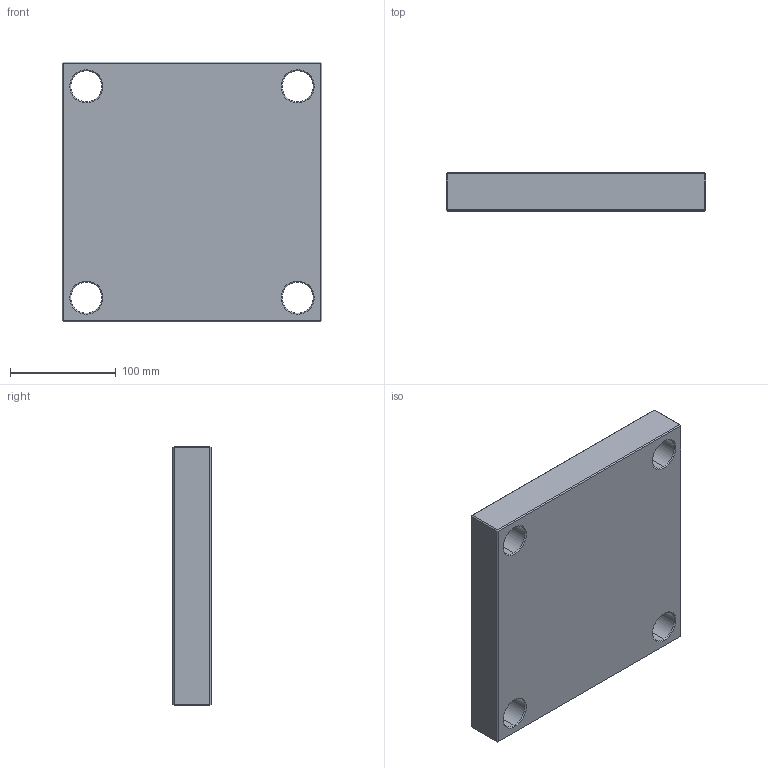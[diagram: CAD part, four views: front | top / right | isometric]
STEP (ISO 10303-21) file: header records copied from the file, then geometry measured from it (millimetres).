
FILE_DESCRIPTION (( 'STEP AP214' ), '1' );
FILE_NAME ('PCX-246x246x36.STEP', '2020-04-30T17:06:41', ( 'August' ), ( '' ), 'SwSTEP 2.0', 'SolidWorks 2018', '' );
FILE_SCHEMA (( 'AUTOMOTIVE_DESIGN' ));
Length unit declared in the file: millimetre
Products named in the file (1): PCX-246x246x36
Bounding box: 246 x 36 x 246 mm (x, y, z)
Volume: 2059869.3 mm3; surface area: 166672.6 mm2
Topology: 1 solids, 1 shells, 82 faces, 168 edges, 96 vertices
Faces by surface type: plane 34, cone 24, cylinder 24
Entity records: 2170 total; most frequent: DIRECTION 406, CARTESIAN_POINT 347, ORIENTED_EDGE 336, EDGE_CURVE 168, AXIS2_PLACEMENT_3D 155, EDGE_LOOP 98, VECTOR 96, VERTEX_POINT 96
